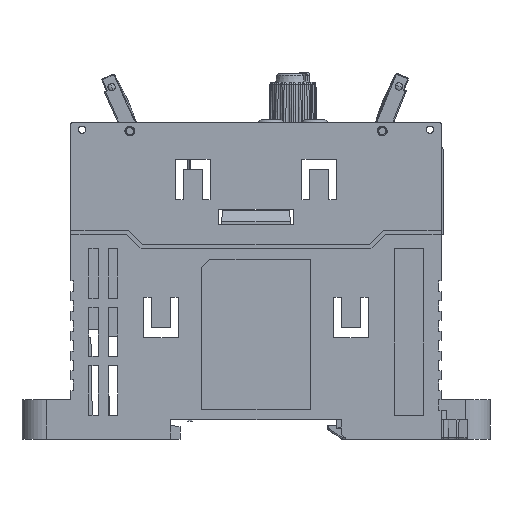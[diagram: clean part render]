
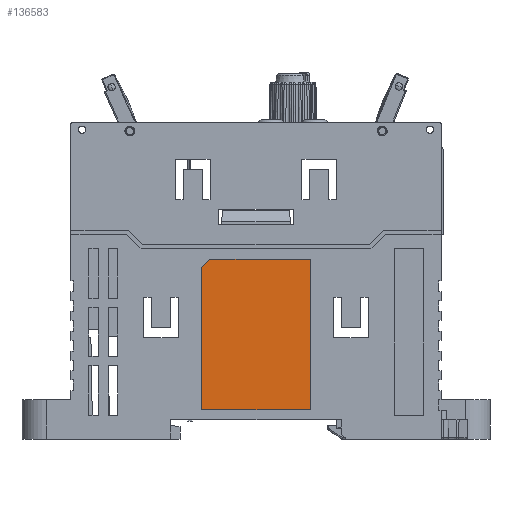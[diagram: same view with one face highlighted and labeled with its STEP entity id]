
A CAD part, left-side view. The second image highlights one B-rep face of the part: STEP entity #136583.
In plain terms, the highlighted planar face has unit normal (-1, 0, 0).
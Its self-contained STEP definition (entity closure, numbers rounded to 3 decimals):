
#1120 = PLANE ( 'NONE',  #201694 ) ;
#7337 = DIRECTION ( 'NONE',  ( 0., 0., -1. ) ) ;
#14455 = CARTESIAN_POINT ( 'NONE',  ( -37.23, 10.788, 107.287 ) ) ;
#21222 = FACE_OUTER_BOUND ( 'NONE', #123337, .T. ) ;
#22301 = CARTESIAN_POINT ( 'NONE',  ( -37.23, -0.575, 93.8 ) ) ;
#32017 = ORIENTED_EDGE ( 'NONE', *, *, #169932, .T. ) ;
#33902 = VECTOR ( 'NONE', #148283, 1000. ) ;
#43651 = CARTESIAN_POINT ( 'NONE',  ( -37.23, 8.875, 109.2 ) ) ;
#46761 = DIRECTION ( 'NONE',  ( 0., 0., 1. ) ) ;
#47454 = EDGE_CURVE ( 'NONE', #171125, #91876, #114884, .T. ) ;
#47843 = CARTESIAN_POINT ( 'NONE',  ( -37.23, -11.725, 101.5 ) ) ;
#56981 = ORIENTED_EDGE ( 'NONE', *, *, #218418, .T. ) ;
#63794 = EDGE_CURVE ( 'NONE', #162035, #171125, #192266, .T. ) ;
#72567 = DIRECTION ( 'NONE',  ( 0., 1., 0. ) ) ;
#72741 = EDGE_CURVE ( 'NONE', #202286, #162035, #78772, .T. ) ;
#75019 = ORIENTED_EDGE ( 'NONE', *, *, #47454, .T. ) ;
#76596 = CARTESIAN_POINT ( 'NONE',  ( -37.23, 10.575, 86.1 ) ) ;
#78772 = LINE ( 'NONE', #76596, #160118 ) ;
#79663 = VECTOR ( 'NONE', #152936, 1000. ) ;
#80494 = ORIENTED_EDGE ( 'NONE', *, *, #63794, .T. ) ;
#89334 = DIRECTION ( 'NONE',  ( 1., 0., 0. ) ) ;
#91876 = VERTEX_POINT ( 'NONE', #191701 ) ;
#93587 = VERTEX_POINT ( 'NONE', #43651 ) ;
#110261 = CARTESIAN_POINT ( 'NONE',  ( -37.23, -0.575, 109.2 ) ) ;
#113128 = VECTOR ( 'NONE', #131396, 1000. ) ;
#114884 = LINE ( 'NONE', #47843, #143158 ) ;
#116224 = ORIENTED_EDGE ( 'NONE', *, *, #72741, .T. ) ;
#120548 = LINE ( 'NONE', #14455, #79663 ) ;
#123337 = EDGE_LOOP ( 'NONE', ( #32017, #116224, #80494, #75019, #56981 ) ) ;
#131396 = DIRECTION ( 'NONE',  ( 0., 1., 0. ) ) ;
#136583 = ADVANCED_FACE ( 'NONE', ( #21222 ), #1120, .F. ) ;
#138420 = CARTESIAN_POINT ( 'NONE',  ( -37.23, -11.725, 78.4 ) ) ;
#143158 = VECTOR ( 'NONE', #46761, 1000. ) ;
#148283 = DIRECTION ( 'NONE',  ( 0., -1., 0. ) ) ;
#152936 = DIRECTION ( 'NONE',  ( 0., 0.707, -0.707 ) ) ;
#160118 = VECTOR ( 'NONE', #7337, 1000. ) ;
#162035 = VERTEX_POINT ( 'NONE', #197515 ) ;
#164893 = LINE ( 'NONE', #110261, #113128 ) ;
#169932 = EDGE_CURVE ( 'NONE', #93587, #202286, #120548, .T. ) ;
#171125 = VERTEX_POINT ( 'NONE', #138420 ) ;
#191701 = CARTESIAN_POINT ( 'NONE',  ( -37.23, -11.725, 109.2 ) ) ;
#192266 = LINE ( 'NONE', #199700, #33902 ) ;
#197515 = CARTESIAN_POINT ( 'NONE',  ( -37.23, 10.575, 78.4 ) ) ;
#199700 = CARTESIAN_POINT ( 'NONE',  ( -37.23, -0.575, 78.4 ) ) ;
#201694 = AXIS2_PLACEMENT_3D ( 'NONE', #22301, #89334, #72567 ) ;
#202286 = VERTEX_POINT ( 'NONE', #203709 ) ;
#203709 = CARTESIAN_POINT ( 'NONE',  ( -37.23, 10.575, 107.5 ) ) ;
#218418 = EDGE_CURVE ( 'NONE', #91876, #93587, #164893, .T. ) ;
